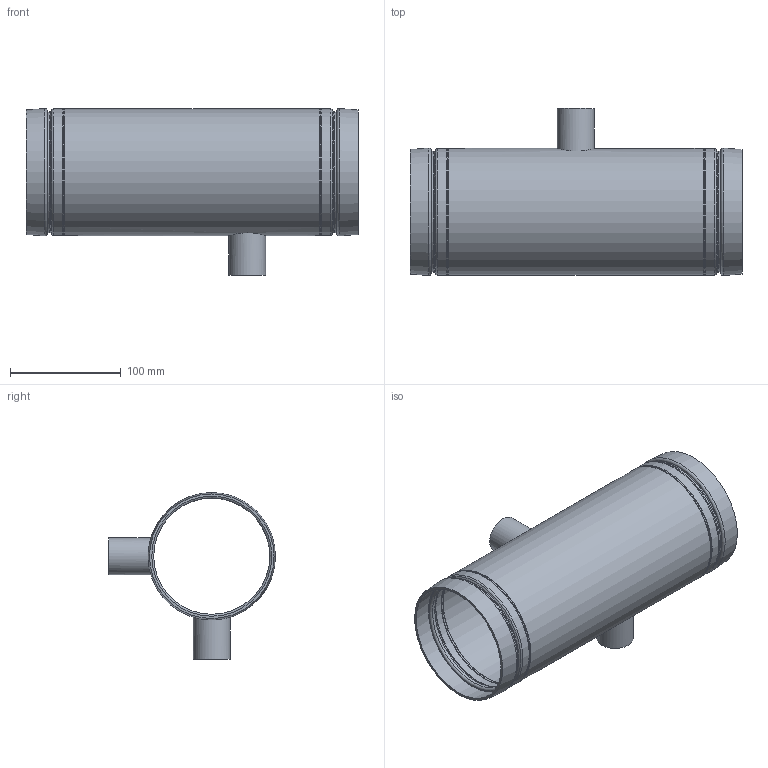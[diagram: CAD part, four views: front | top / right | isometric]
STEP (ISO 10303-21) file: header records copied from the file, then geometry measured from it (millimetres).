
FILE_DESCRIPTION(/* description */ ('VIC STRENGTHIN NIPPLE No E494I','CAx-IF Rec.Pracs.---Representation and Presentation of Product Manufacturing Information (PMI)---4.0---2014-10-13'),/* implementation_level */ '2;1');
FILE_NAME(/* name */ 'C:\ST100\STEP\Victaulic_SS-StrengThin 100_Nipple Instrumentation_No E494I (ST1)\Victaulic_SS-StrengThin 100_Nipple Instrumentation_No E494I (ST1)_4 (100).stp',/* time_stamp */ '2021-06-17T18:16:26+06:00',/* author */ ('kkamble'),/* organization */ ('Victaulic'),/* preprocessor_version */ 'ST-DEVELOPER v17.2',/* originating_system */ 'Autodesk Inventor 2019',/* authorisation */ '');
FILE_SCHEMA (('AP242_MANAGED_MODEL_BASED_3D_ENGINEERING_MIM_LF { 1 0 10303 442 1 1 4 }'));
Length unit declared in the file: inch
Products named in the file (1): E494I-04.0
Bounding box: 299.72 x 150.75 x 150.75 mm (x, y, z)
Volume: 250665.5 mm3; surface area: 228946.5 mm2
Topology: 1 solids, 1 shells, 60 faces, 196 edges, 146 vertices
Faces by surface type: torus 26, cylinder 16, plane 10, cone 8
Full cylindrical faces by diameter (mm): 21.336 x2, 26.67 x2, 33.401 x2, 104.775 x2, 108.839 x2, 110.236 x3, 114.3 x3
Entity records: 2720 total; most frequent: CARTESIAN_POINT 620, DIRECTION 500, ORIENTED_EDGE 392, AXIS2_PLACEMENT_3D 238, EDGE_CURVE 196, CIRCLE 164, VERTEX_POINT 146, EDGE_LOOP 74
